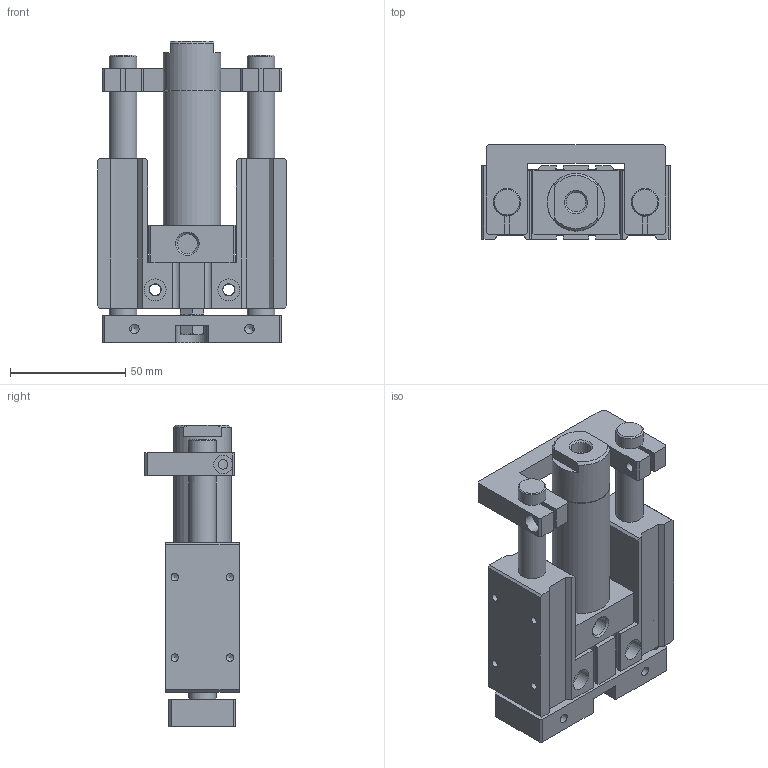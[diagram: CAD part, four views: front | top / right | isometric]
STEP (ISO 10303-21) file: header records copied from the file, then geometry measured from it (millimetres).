
FILE_DESCRIPTION((''),'2;1');
FILE_NAME('I:\3D電子目錄\氣缸\TMB(U)\TMB(U)\TMB(U)20\TMB(U)20x25.stp','2007-10-04T14:59:05',('Administrator'),(''),'Autodesk Inventor 11','Autodesk Inventor 11','');
FILE_SCHEMA(('AUTOMOTIVE_DESIGN { 1 0 10303 214 1 1 1 1 }'));
Length unit declared in the file: millimetre
Products named in the file (1): TMB(U)20
Bounding box: 82 x 41 x 131 mm (x, y, z)
Volume: 205844.5 mm3; surface area: 51219.1 mm2
Topology: 1 solids, 1 shells, 244 faces, 668 edges, 432 vertices
Faces by surface type: plane 139, bspline 50, cone 28, cylinder 25, torus 2
Full cylindrical faces by diameter (mm): 3.242 x4, 4.134 x4, 8 x1, 10 x2, 11 x2, 12 x3, 25 x2
Entity records: 7581 total; most frequent: CARTESIAN_POINT 2093, ORIENTED_EDGE 1088, DIRECTION 1054, EDGE_CURVE 544, VERTEX_POINT 384, EDGE_LOOP 368, AXIS2_PLACEMENT_3D 355, VECTOR 344
